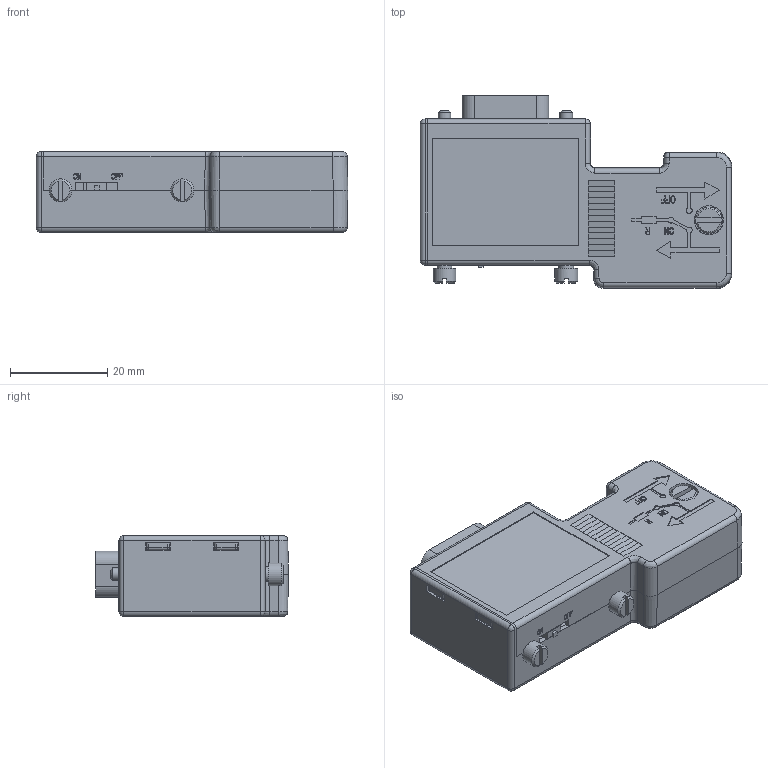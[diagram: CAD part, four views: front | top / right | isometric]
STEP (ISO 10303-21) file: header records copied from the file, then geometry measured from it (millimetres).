
FILE_DESCRIPTION(('FreeCAD Model'),'2;1');
FILE_NAME('C:/Users/ralfh/Desktop/test.step','2017-05-10T16:27:49',( 'Author'),(''),'Open CASCADE STEP processor 7.0','FreeCAD','Unknown' );
FILE_SCHEMA(('AUTOMOTIVE_DESIGN_CC2 { 1 2 10303 214 -1 1 5 4 }'));
Length unit declared in the file: millimetre
Products named in the file (8): ASSEMBLY; Steckteil_Buchse; Schale-1_90-Grad_1-fach_neutral; Schale-2_90-Grad_1-fach_neutral; Schraube_1-fach; Schalthebel_1-fach; Steckmutter; Steckschraube
Assembly tree (8 placements, depth 2):
  ASSEMBLY
    Steckteil_Buchse
    Schale-1_90-Grad_1-fach_neutral
    Schale-2_90-Grad_1-fach_neutral
    Schraube_1-fach  x2
    Schalthebel_1-fach
    Steckmutter
    Steckschraube
Bounding box: 64 x 39.6 x 16.6 mm (x, y, z)
Volume: 11167.5 mm3; surface area: 17319.9 mm2
Topology: 8 solids, 8 shells, 1465 faces, 3876 edges, 2467 vertices
Faces by surface type: plane 1113, cylinder 223, cone 56, sphere 47, bspline 15, torus 11
Full cylindrical faces by diameter (mm): 1 x9, 1.3 x2, 1.7 x1, 2.3 x1, 2.4 x4, 2.55 x1, 2.6 x2, 2.8 x2, 2.802 x2, 3 x3, 3.2 x1, 4 x1, 4.3 x4, 4.7 x2, 5.4 x1, 5.5 x1
Entity records: 115110 total; most frequent: CARTESIAN_POINT 29317, DIRECTION 13928, LINE 9724, VECTOR 9724, ORIENTED_EDGE 7558, PCURVE 7558, DEFINITIONAL_REPRESENTATION 7558, EDGE_CURVE 3779
